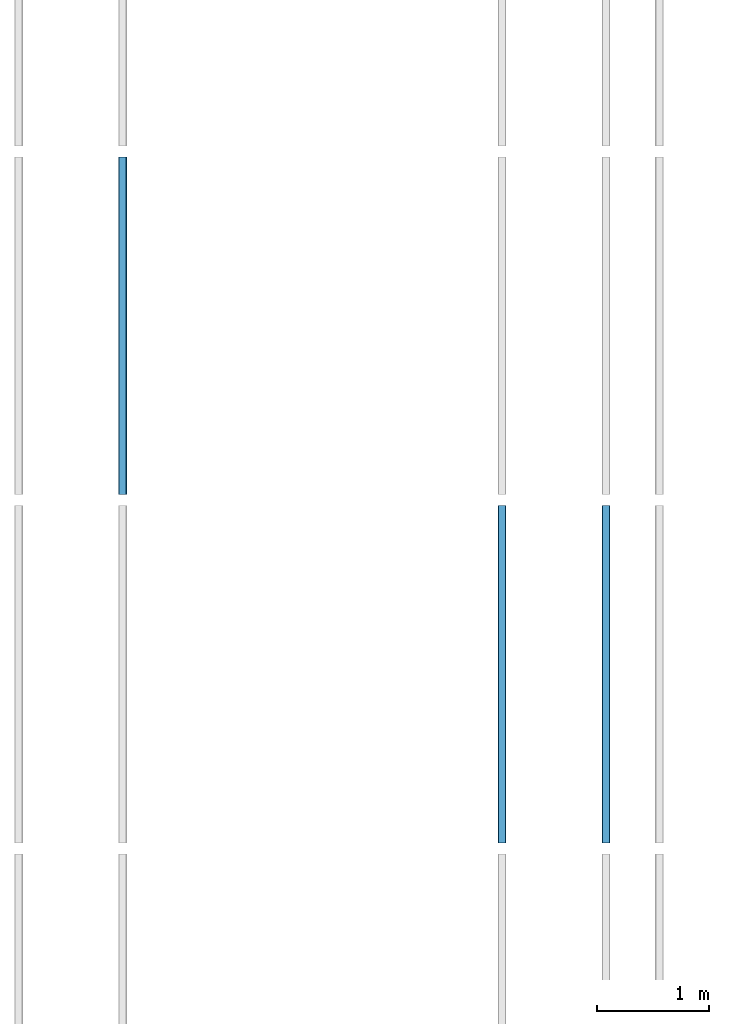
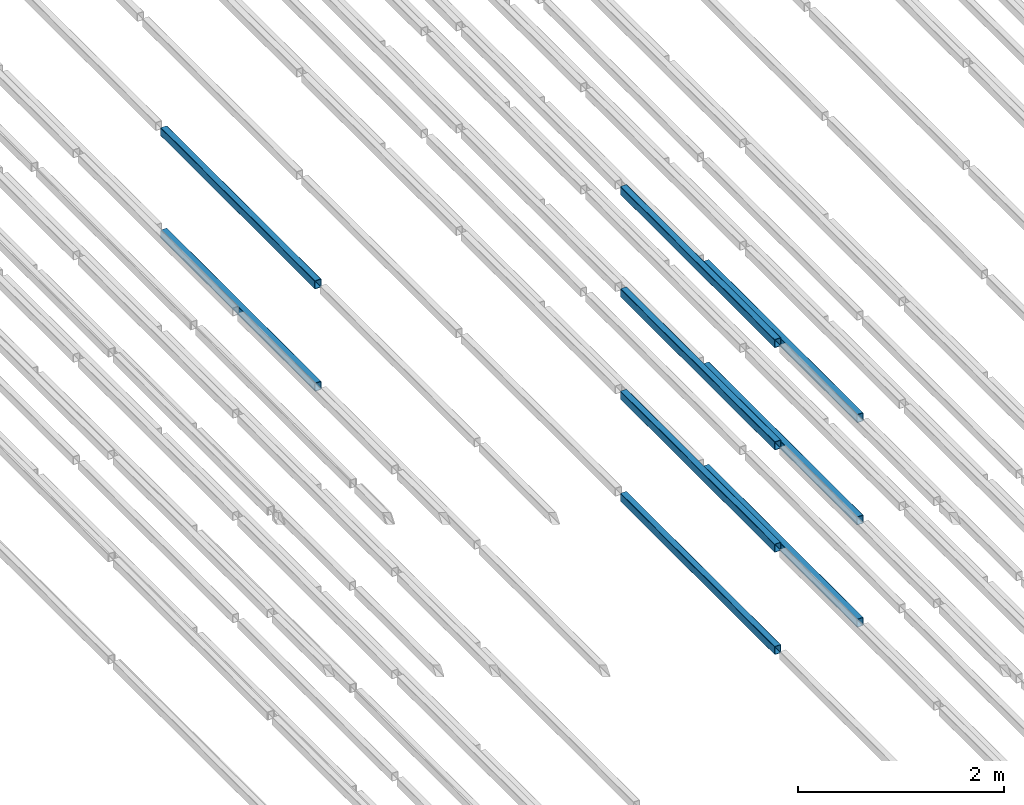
# One storey, part 43 of 290: 9 beams.
"""IFC2X3 building model written with IfcOpenShell, lengths in metres."""

from ifc_helpers import new_model, entity, si_unit, converted_unit, derived_unit, direction, frame, frame_2d, origin, place, context, subcontext, project, spatial, polyline, circle_curve, parameter, trimmed, segment, composite_curve, outline, extrude, material, type_object, element, save


model = new_model("IFC2X3")

# Units and contexts
model_context = context("Model", 3, precision=1e-05, world=origin(), true_north=direction((6.12303176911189e-17, 1.0)))
body_context = subcontext(model_context, "Body", "Model", "MODEL_VIEW")
ifc_project = project(units=[si_unit("LENGTHUNIT", "METRE"), si_unit("AREAUNIT", "SQUARE_METRE"), si_unit("VOLUMEUNIT", "CUBIC_METRE"), converted_unit("PLANEANGLEUNIT", "DEGREE", entity("IfcRatioMeasure", 0.0174532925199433), si_unit("PLANEANGLEUNIT", "RADIAN"), dimensions=[0, 0, 0, 0, 0, 0, 0]), si_unit("MASSUNIT", "GRAM", prefix="KILO"), derived_unit("MASSDENSITYUNIT", [(si_unit("MASSUNIT", "GRAM", prefix="KILO"), 1), (si_unit("LENGTHUNIT", "METRE"), -3)]), derived_unit("MOMENTOFINERTIAUNIT", [(si_unit("LENGTHUNIT", "METRE"), 4)]), si_unit("TIMEUNIT", "SECOND"), si_unit("FREQUENCYUNIT", "HERTZ"), si_unit("THERMODYNAMICTEMPERATUREUNIT", "DEGREE_CELSIUS"), derived_unit("THERMALTRANSMITTANCEUNIT", [(si_unit("MASSUNIT", "GRAM", prefix="KILO"), 1), (si_unit("THERMODYNAMICTEMPERATUREUNIT", "KELVIN"), -1), (si_unit("TIMEUNIT", "SECOND"), -3)]), derived_unit("VOLUMETRICFLOWRATEUNIT", [(si_unit("LENGTHUNIT", "METRE"), 3), (si_unit("TIMEUNIT", "SECOND"), -1)]), si_unit("ELECTRICCURRENTUNIT", "AMPERE"), si_unit("ELECTRICVOLTAGEUNIT", "VOLT"), si_unit("POWERUNIT", "WATT"), si_unit("FORCEUNIT", "NEWTON", prefix="KILO"), si_unit("ILLUMINANCEUNIT", "LUX"), si_unit("LUMINOUSFLUXUNIT", "LUMEN"), si_unit("LUMINOUSINTENSITYUNIT", "CANDELA"), derived_unit("USERDEFINED", [(si_unit("MASSUNIT", "GRAM", prefix="KILO"), -1), (si_unit("LENGTHUNIT", "METRE"), -2), (si_unit("TIMEUNIT", "SECOND"), 3), (si_unit("LUMINOUSFLUXUNIT", "LUMEN"), 1)]), derived_unit("LINEARVELOCITYUNIT", [(si_unit("LENGTHUNIT", "METRE"), 1), (si_unit("TIMEUNIT", "SECOND"), -1)]), si_unit("PRESSUREUNIT", "PASCAL"), derived_unit("USERDEFINED", [(si_unit("LENGTHUNIT", "METRE"), -2), (si_unit("MASSUNIT", "GRAM", prefix="KILO"), 1), (si_unit("TIMEUNIT", "SECOND"), -2)]), derived_unit("LINEARFORCEUNIT", [(si_unit("MASSUNIT", "GRAM", prefix="KILO"), 1), (si_unit("LENGTHUNIT", "METRE"), 1), (si_unit("TIMEUNIT", "SECOND"), -2), (si_unit("LENGTHUNIT", "METRE"), -1)]), derived_unit("PLANARFORCEUNIT", [(si_unit("MASSUNIT", "GRAM", prefix="KILO"), 1), (si_unit("LENGTHUNIT", "METRE"), 1), (si_unit("TIMEUNIT", "SECOND"), -2), (si_unit("LENGTHUNIT", "METRE"), -2)])], contexts=[model_context])

# Site, building, storey
site_placement = place(None, origin())
site = spatial("IfcSite", under=ifc_project, at=site_placement, Name="Default", CompositionType="ELEMENT")
building_placement = place(site_placement, origin())
building = spatial("IfcBuilding", under=site, at=building_placement, CompositionType="ELEMENT")
storey_placement = place(building_placement, frame((0.0, 0.0, 4.0)))
storey = spatial("IfcBuildingStorey", under=building, at=storey_placement, Name="01_OG", CompositionType="ELEMENT", Elevation=4.0)

# Beams
ifc_material = material(Name="Metall - Baustahl S235 blau")
beam_type = type_object("IfcBeamType", Name="RHS Träger (EN 10219-2):RHS 100 x 75 x 5", PredefinedType="NOTDEFINED")
beam_1_placement = place(storey_placement, frame((-196.415111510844, 30.248088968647, -1.2), z_axis=(0.0, 0.0, 1.0), x_axis=(0.0, 1.0, 0.0)))
element("IfcBeam", 1, at=beam_1_placement, inside=storey, type_object=beam_type, material=ifc_material, Name="RHS Träger (EN 10219-2):RHS 100 x 75 x 5", ObjectType="RHS Träger (EN 10219-2):RHS 100 x 75 x 5", context=body_context, shape_type="SweptSolid", body=[
    extrude(outline(composite_curve([segment(trimmed(circle_curve(frame_2d((-0.0274999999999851, -0.0400000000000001), x_axis=(1.0, 0.0)), 0.01), [parameter(180.0)], [parameter(270.0)], True, "PARAMETER"), True, "CONTINUOUS"), segment(polyline([(-0.0274999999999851, -0.05), (0.0274999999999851, -0.05)]), True, "CONTINUOUS"), segment(trimmed(circle_curve(frame_2d((0.0274999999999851, -0.0400000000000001), x_axis=(1.0, 0.0)), 0.01), [parameter(270.0)], [parameter(5.08888749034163e-14)], True, "PARAMETER"), True, "CONTINUOUS"), segment(polyline([(0.0375000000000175, -0.0400000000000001), (0.0375000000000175, 0.0400000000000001)]), True, "CONTINUOUS"), segment(trimmed(circle_curve(frame_2d((0.0274999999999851, 0.0400000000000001), x_axis=(1.0, 0.0)), 0.01), [parameter(360.0)], [parameter(89.9999999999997)], True, "PARAMETER"), True, "CONTINUOUS"), segment(polyline([(0.0274999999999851, 0.05), (-0.0274999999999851, 0.05)]), True, "CONTINUOUS"), segment(trimmed(circle_curve(frame_2d((-0.0274999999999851, 0.0400000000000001), x_axis=(1.0, 0.0)), 0.01), [parameter(90.0000000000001)], [parameter(180.0)], True, "PARAMETER"), True, "CONTINUOUS"), segment(polyline([(-0.0374999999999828, 0.0400000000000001), (-0.0374999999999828, -0.0400000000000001)]), True, "CONTINUOUS")], self_intersect=False), holes=[composite_curve([segment(polyline([(0.0274999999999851, -0.0450000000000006), (-0.0274999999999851, -0.0450000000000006)]), True, "CONTINUOUS"), segment(trimmed(circle_curve(frame_2d((-0.0274999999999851, -0.0400000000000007), x_axis=(1.0, 0.0)), 0.005), [parameter(180.0)], [parameter(270.0)], True, "PARAMETER"), False, "CONTINUOUS"), segment(polyline([(-0.0325000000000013, -0.0400000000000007), (-0.0325000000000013, 0.039999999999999)]), True, "CONTINUOUS"), segment(trimmed(circle_curve(frame_2d((-0.0274999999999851, 0.039999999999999), x_axis=(1.0, 0.0)), 0.005), [parameter(90.0000000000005)], [parameter(180.0)], True, "PARAMETER"), False, "CONTINUOUS"), segment(polyline([(-0.0274999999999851, 0.044999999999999), (0.0274999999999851, 0.044999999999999)]), True, "CONTINUOUS"), segment(trimmed(circle_curve(frame_2d((0.0274999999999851, 0.039999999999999), x_axis=(1.0, 0.0)), 0.005), [parameter(0.0)], [parameter(90.0000000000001)], True, "PARAMETER"), False, "CONTINUOUS"), segment(polyline([(0.0325000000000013, 0.039999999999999), (0.0325000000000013, -0.0400000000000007)]), True, "CONTINUOUS"), segment(trimmed(circle_curve(frame_2d((0.0274999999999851, -0.0400000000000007), x_axis=(1.0, 0.0)), 0.005), [parameter(270.0)], [parameter(4.07110999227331e-13)], True, "PARAMETER"), False, "CONTINUOUS")], self_intersect=False)]), frame((9.99999999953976e-05, 0.0375000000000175, -0.0500000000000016), z_axis=(1.0, 0.0, 0.0), x_axis=(0.0, -1.0, 0.0)), (0.0, 0.0, 1.0), 2.9998),
])
beam_2_placement = place(storey_placement, frame((-196.415111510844, 30.248088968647, 0.0150000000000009), z_axis=(0.0, 0.0, 1.0), x_axis=(0.0, 1.0, 0.0)))
element("IfcBeam", 2, at=beam_2_placement, inside=storey, type_object=beam_type, material=ifc_material, Name="RHS Träger (EN 10219-2):RHS 100 x 75 x 5", ObjectType="RHS Träger (EN 10219-2):RHS 100 x 75 x 5", context=body_context, shape_type="SweptSolid", body=[
    extrude(outline(composite_curve([segment(trimmed(circle_curve(frame_2d((-0.0274999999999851, -0.0400000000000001), x_axis=(1.0, 0.0)), 0.01), [parameter(180.0)], [parameter(270.0)], True, "PARAMETER"), True, "CONTINUOUS"), segment(polyline([(-0.0274999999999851, -0.05), (0.0274999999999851, -0.05)]), True, "CONTINUOUS"), segment(trimmed(circle_curve(frame_2d((0.0274999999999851, -0.0400000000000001), x_axis=(1.0, 0.0)), 0.01), [parameter(270.0)], [parameter(5.08888749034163e-14)], True, "PARAMETER"), True, "CONTINUOUS"), segment(polyline([(0.0375000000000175, -0.0400000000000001), (0.0375000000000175, 0.0400000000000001)]), True, "CONTINUOUS"), segment(trimmed(circle_curve(frame_2d((0.0274999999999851, 0.0400000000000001), x_axis=(1.0, 0.0)), 0.01), [parameter(360.0)], [parameter(89.9999999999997)], True, "PARAMETER"), True, "CONTINUOUS"), segment(polyline([(0.0274999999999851, 0.05), (-0.0274999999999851, 0.05)]), True, "CONTINUOUS"), segment(trimmed(circle_curve(frame_2d((-0.0274999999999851, 0.0400000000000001), x_axis=(1.0, 0.0)), 0.01), [parameter(90.0000000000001)], [parameter(180.0)], True, "PARAMETER"), True, "CONTINUOUS"), segment(polyline([(-0.0374999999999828, 0.0400000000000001), (-0.0374999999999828, -0.0400000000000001)]), True, "CONTINUOUS")], self_intersect=False), holes=[composite_curve([segment(polyline([(0.0274999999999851, -0.0450000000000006), (-0.0274999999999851, -0.0450000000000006)]), True, "CONTINUOUS"), segment(trimmed(circle_curve(frame_2d((-0.0274999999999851, -0.0400000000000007), x_axis=(1.0, 0.0)), 0.005), [parameter(180.0)], [parameter(270.0)], True, "PARAMETER"), False, "CONTINUOUS"), segment(polyline([(-0.0325000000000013, -0.0400000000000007), (-0.0325000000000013, 0.039999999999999)]), True, "CONTINUOUS"), segment(trimmed(circle_curve(frame_2d((-0.0274999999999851, 0.039999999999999), x_axis=(1.0, 0.0)), 0.005), [parameter(90.0000000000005)], [parameter(180.0)], True, "PARAMETER"), False, "CONTINUOUS"), segment(polyline([(-0.0274999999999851, 0.044999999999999), (0.0274999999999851, 0.044999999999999)]), True, "CONTINUOUS"), segment(trimmed(circle_curve(frame_2d((0.0274999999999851, 0.039999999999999), x_axis=(1.0, 0.0)), 0.005), [parameter(0.0)], [parameter(90.0000000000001)], True, "PARAMETER"), False, "CONTINUOUS"), segment(polyline([(0.0325000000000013, 0.039999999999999), (0.0325000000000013, -0.0400000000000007)]), True, "CONTINUOUS"), segment(trimmed(circle_curve(frame_2d((0.0274999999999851, -0.0400000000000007), x_axis=(1.0, 0.0)), 0.005), [parameter(270.0)], [parameter(4.07110999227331e-13)], True, "PARAMETER"), False, "CONTINUOUS")], self_intersect=False)]), frame((9.9999999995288e-05, 0.0375000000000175, -0.0500000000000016), z_axis=(1.0, 0.0, 0.0), x_axis=(0.0, -1.0, 0.0)), (0.0, 0.0, 1.0), 2.9998),
])
beam_3_placement = place(storey_placement, frame((-196.415111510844, 30.248088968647, 1.23), z_axis=(0.0, 0.0, 1.0), x_axis=(0.0, 1.0, 0.0)))
element("IfcBeam", 3, at=beam_3_placement, inside=storey, type_object=beam_type, material=ifc_material, Name="RHS Träger (EN 10219-2):RHS 100 x 75 x 5", ObjectType="RHS Träger (EN 10219-2):RHS 100 x 75 x 5", context=body_context, shape_type="SweptSolid", body=[
    extrude(outline(composite_curve([segment(trimmed(circle_curve(frame_2d((-0.0274999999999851, -0.0399999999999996), x_axis=(1.0, 0.0)), 0.01), [parameter(180.0)], [parameter(270.0)], True, "PARAMETER"), True, "CONTINUOUS"), segment(polyline([(-0.0274999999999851, -0.0499999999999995), (0.0274999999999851, -0.0499999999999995)]), True, "CONTINUOUS"), segment(trimmed(circle_curve(frame_2d((0.0274999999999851, -0.0399999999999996), x_axis=(1.0, 0.0)), 0.01), [parameter(270.0)], [parameter(5.08888749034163e-14)], True, "PARAMETER"), True, "CONTINUOUS"), segment(polyline([(0.0375000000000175, -0.0399999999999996), (0.0375000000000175, 0.0399999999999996)]), True, "CONTINUOUS"), segment(trimmed(circle_curve(frame_2d((0.0274999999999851, 0.0399999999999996), x_axis=(1.0, 0.0)), 0.01), [parameter(360.0)], [parameter(89.9999999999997)], True, "PARAMETER"), True, "CONTINUOUS"), segment(polyline([(0.0274999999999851, 0.0500000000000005), (-0.0274999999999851, 0.0500000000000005)]), True, "CONTINUOUS"), segment(trimmed(circle_curve(frame_2d((-0.0274999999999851, 0.0399999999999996), x_axis=(1.0, 0.0)), 0.01), [parameter(90.0000000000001)], [parameter(180.0)], True, "PARAMETER"), True, "CONTINUOUS"), segment(polyline([(-0.0374999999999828, 0.0399999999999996), (-0.0374999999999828, -0.0399999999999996)]), True, "CONTINUOUS")], self_intersect=False), holes=[composite_curve([segment(polyline([(0.0274999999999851, -0.0450000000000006), (-0.0274999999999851, -0.0450000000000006)]), True, "CONTINUOUS"), segment(trimmed(circle_curve(frame_2d((-0.0274999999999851, -0.0400000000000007), x_axis=(1.0, 0.0)), 0.005), [parameter(180.0)], [parameter(270.0)], True, "PARAMETER"), False, "CONTINUOUS"), segment(polyline([(-0.0325000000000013, -0.0400000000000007), (-0.0325000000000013, 0.0399999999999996)]), True, "CONTINUOUS"), segment(trimmed(circle_curve(frame_2d((-0.0274999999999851, 0.0399999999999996), x_axis=(1.0, 0.0)), 0.005), [parameter(90.0000000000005)], [parameter(180.0)], True, "PARAMETER"), False, "CONTINUOUS"), segment(polyline([(-0.0274999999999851, 0.0449999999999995), (0.0274999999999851, 0.0449999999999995)]), True, "CONTINUOUS"), segment(trimmed(circle_curve(frame_2d((0.0274999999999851, 0.0399999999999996), x_axis=(1.0, 0.0)), 0.005), [parameter(0.0)], [parameter(90.0000000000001)], True, "PARAMETER"), False, "CONTINUOUS"), segment(polyline([(0.0325000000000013, 0.0399999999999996), (0.0325000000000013, -0.0400000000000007)]), True, "CONTINUOUS"), segment(trimmed(circle_curve(frame_2d((0.0274999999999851, -0.0400000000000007), x_axis=(1.0, 0.0)), 0.005), [parameter(270.0)], [parameter(4.07110999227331e-13)], True, "PARAMETER"), False, "CONTINUOUS")], self_intersect=False)]), frame((9.99999999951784e-05, 0.0375000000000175, -0.0500000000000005), z_axis=(1.0, 0.0, 0.0), x_axis=(0.0, -1.0, 0.0)), (0.0, 0.0, 1.0), 2.9998),
])
beam_4_placement = place(storey_placement, frame((-196.415111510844, 30.248088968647, 2.445), z_axis=(0.0, 0.0, 1.0), x_axis=(0.0, 1.0, 0.0)))
element("IfcBeam", 4, at=beam_4_placement, inside=storey, type_object=beam_type, material=ifc_material, Name="RHS Träger (EN 10219-2):RHS 100 x 75 x 5", ObjectType="RHS Träger (EN 10219-2):RHS 100 x 75 x 5", context=body_context, shape_type="SweptSolid", body=[
    extrude(outline(composite_curve([segment(trimmed(circle_curve(frame_2d((-0.0274999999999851, -0.0399999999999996), x_axis=(1.0, 0.0)), 0.01), [parameter(180.0)], [parameter(270.0)], True, "PARAMETER"), True, "CONTINUOUS"), segment(polyline([(-0.0274999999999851, -0.0499999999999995), (0.0274999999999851, -0.0499999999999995)]), True, "CONTINUOUS"), segment(trimmed(circle_curve(frame_2d((0.0274999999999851, -0.0399999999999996), x_axis=(1.0, 0.0)), 0.01), [parameter(270.0)], [parameter(5.08888749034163e-14)], True, "PARAMETER"), True, "CONTINUOUS"), segment(polyline([(0.0375000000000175, -0.0399999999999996), (0.0375000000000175, 0.0399999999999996)]), True, "CONTINUOUS"), segment(trimmed(circle_curve(frame_2d((0.0274999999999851, 0.0399999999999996), x_axis=(1.0, 0.0)), 0.01), [parameter(360.0)], [parameter(89.9999999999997)], True, "PARAMETER"), True, "CONTINUOUS"), segment(polyline([(0.0274999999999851, 0.0500000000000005), (-0.0274999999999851, 0.0500000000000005)]), True, "CONTINUOUS"), segment(trimmed(circle_curve(frame_2d((-0.0274999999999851, 0.0399999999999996), x_axis=(1.0, 0.0)), 0.01), [parameter(90.0000000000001)], [parameter(180.0)], True, "PARAMETER"), True, "CONTINUOUS"), segment(polyline([(-0.0374999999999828, 0.0399999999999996), (-0.0374999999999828, -0.0399999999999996)]), True, "CONTINUOUS")], self_intersect=False), holes=[composite_curve([segment(polyline([(0.0274999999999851, -0.0450000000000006), (-0.0274999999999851, -0.0450000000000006)]), True, "CONTINUOUS"), segment(trimmed(circle_curve(frame_2d((-0.0274999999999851, -0.0400000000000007), x_axis=(1.0, 0.0)), 0.005), [parameter(180.0)], [parameter(270.0)], True, "PARAMETER"), False, "CONTINUOUS"), segment(polyline([(-0.0325000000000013, -0.0400000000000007), (-0.0325000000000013, 0.0399999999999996)]), True, "CONTINUOUS"), segment(trimmed(circle_curve(frame_2d((-0.0274999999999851, 0.0399999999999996), x_axis=(1.0, 0.0)), 0.005), [parameter(90.0000000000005)], [parameter(180.0)], True, "PARAMETER"), False, "CONTINUOUS"), segment(polyline([(-0.0274999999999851, 0.0449999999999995), (0.0274999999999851, 0.0449999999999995)]), True, "CONTINUOUS"), segment(trimmed(circle_curve(frame_2d((0.0274999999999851, 0.0399999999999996), x_axis=(1.0, 0.0)), 0.005), [parameter(0.0)], [parameter(90.0000000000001)], True, "PARAMETER"), False, "CONTINUOUS"), segment(polyline([(0.0325000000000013, 0.0399999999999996), (0.0325000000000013, -0.0400000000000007)]), True, "CONTINUOUS"), segment(trimmed(circle_curve(frame_2d((0.0274999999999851, -0.0400000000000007), x_axis=(1.0, 0.0)), 0.005), [parameter(270.0)], [parameter(4.07110999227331e-13)], True, "PARAMETER"), False, "CONTINUOUS")], self_intersect=False)]), frame((9.99999999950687e-05, 0.0375000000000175, -0.0500000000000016), z_axis=(1.0, 0.0, 0.0), x_axis=(0.0, -1.0, 0.0)), (0.0, 0.0, 1.0), 2.9998),
])
beam_5_placement = place(storey_placement, frame((-195.565111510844, 30.248088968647, -1.2), z_axis=(0.0, 0.0, 1.0), x_axis=(0.0, 1.0, 0.0)))
element("IfcBeam", 5, at=beam_5_placement, inside=storey, type_object=beam_type, material=ifc_material, Name="RHS Träger (EN 10219-2):RHS 100 x 75 x 5", ObjectType="RHS Träger (EN 10219-2):RHS 100 x 75 x 5", context=body_context, shape_type="SweptSolid", body=[
    extrude(outline(composite_curve([segment(polyline([(-0.0400000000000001, -0.0374999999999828), (0.0400000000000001, -0.0374999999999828)]), True, "CONTINUOUS"), segment(trimmed(circle_curve(frame_2d((0.0400000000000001, -0.0274999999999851), x_axis=(0.0, 1.0)), 0.01), [parameter(180.0)], [parameter(270.0)], True, "PARAMETER"), True, "CONTINUOUS"), segment(polyline([(0.05, -0.0274999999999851), (0.05, 0.0274999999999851)]), True, "CONTINUOUS"), segment(trimmed(circle_curve(frame_2d((0.0400000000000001, 0.0274999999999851), x_axis=(0.0, 1.0)), 0.01), [parameter(270.0)], [parameter(4.07110999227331e-13)], True, "PARAMETER"), True, "CONTINUOUS"), segment(polyline([(0.0400000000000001, 0.0375000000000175), (-0.0400000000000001, 0.0375000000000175)]), True, "CONTINUOUS"), segment(trimmed(circle_curve(frame_2d((-0.0400000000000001, 0.0274999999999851), x_axis=(0.0, 1.0)), 0.01), [parameter(360.0)], [parameter(90.0000000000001)], True, "PARAMETER"), True, "CONTINUOUS"), segment(polyline([(-0.05, 0.0274999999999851), (-0.05, -0.0274999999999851)]), True, "CONTINUOUS"), segment(trimmed(circle_curve(frame_2d((-0.0400000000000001, -0.0274999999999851), x_axis=(0.0, 1.0)), 0.01), [parameter(90.0000000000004)], [parameter(180.0)], True, "PARAMETER"), True, "CONTINUOUS")], self_intersect=False), holes=[composite_curve([segment(trimmed(circle_curve(frame_2d((-0.0400000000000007, 0.0274999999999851), x_axis=(0.0, 1.0)), 0.005), [parameter(360.0)], [parameter(89.9999999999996)], True, "PARAMETER"), False, "CONTINUOUS"), segment(polyline([(-0.0400000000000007, 0.0325000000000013), (0.039999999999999, 0.0325000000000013)]), True, "CONTINUOUS"), segment(trimmed(circle_curve(frame_2d((0.039999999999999, 0.0274999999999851), x_axis=(0.0, 1.0)), 0.005), [parameter(270.0)], [parameter(0.0)], True, "PARAMETER"), False, "CONTINUOUS"), segment(polyline([(0.044999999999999, 0.0274999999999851), (0.044999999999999, -0.0274999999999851)]), True, "CONTINUOUS"), segment(trimmed(circle_curve(frame_2d((0.039999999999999, -0.0274999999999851), x_axis=(0.0, 1.0)), 0.005), [parameter(180.0)], [parameter(269.999999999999)], True, "PARAMETER"), False, "CONTINUOUS"), segment(polyline([(0.039999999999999, -0.0325000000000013), (-0.0400000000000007, -0.0325000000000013)]), True, "CONTINUOUS"), segment(trimmed(circle_curve(frame_2d((-0.0400000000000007, -0.0274999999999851), x_axis=(0.0, 1.0)), 0.005), [parameter(90.0000000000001)], [parameter(180.0)], True, "PARAMETER"), False, "CONTINUOUS"), segment(polyline([(-0.0450000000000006, -0.0274999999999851), (-0.0450000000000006, 0.0274999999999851)]), True, "CONTINUOUS")], self_intersect=False)]), frame((9.99999999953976e-05, -0.0375000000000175, -0.0500000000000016), z_axis=(1.0, 0.0, 0.0), x_axis=(0.0, 0.0, -1.0)), (0.0, 0.0, 1.0), 2.9998),
])
beam_6_placement = place(storey_placement, frame((-195.565111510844, 30.248088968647, 0.0150000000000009), z_axis=(0.0, 0.0, 1.0), x_axis=(0.0, 1.0, 0.0)))
element("IfcBeam", 6, at=beam_6_placement, inside=storey, type_object=beam_type, material=ifc_material, Name="RHS Träger (EN 10219-2):RHS 100 x 75 x 5", ObjectType="RHS Träger (EN 10219-2):RHS 100 x 75 x 5", context=body_context, shape_type="SweptSolid", body=[
    extrude(outline(composite_curve([segment(polyline([(-0.0400000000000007, -0.0374999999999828), (0.0399999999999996, -0.0374999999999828)]), True, "CONTINUOUS"), segment(trimmed(circle_curve(frame_2d((0.0399999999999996, -0.0274999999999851), x_axis=(0.0, 1.0)), 0.01), [parameter(180.0)], [parameter(270.0)], True, "PARAMETER"), True, "CONTINUOUS"), segment(polyline([(0.0499999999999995, -0.0274999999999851), (0.0499999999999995, 0.0274999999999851)]), True, "CONTINUOUS"), segment(trimmed(circle_curve(frame_2d((0.0399999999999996, 0.0274999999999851), x_axis=(0.0, 1.0)), 0.01), [parameter(270.0)], [parameter(4.07110999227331e-13)], True, "PARAMETER"), True, "CONTINUOUS"), segment(polyline([(0.0399999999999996, 0.0375000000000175), (-0.0400000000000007, 0.0375000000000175)]), True, "CONTINUOUS"), segment(trimmed(circle_curve(frame_2d((-0.0400000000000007, 0.0274999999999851), x_axis=(0.0, 1.0)), 0.01), [parameter(360.0)], [parameter(90.0000000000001)], True, "PARAMETER"), True, "CONTINUOUS"), segment(polyline([(-0.0500000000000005, 0.0274999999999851), (-0.0500000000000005, -0.0274999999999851)]), True, "CONTINUOUS"), segment(trimmed(circle_curve(frame_2d((-0.0400000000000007, -0.0274999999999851), x_axis=(0.0, 1.0)), 0.01), [parameter(90.0000000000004)], [parameter(180.0)], True, "PARAMETER"), True, "CONTINUOUS")], self_intersect=False), holes=[composite_curve([segment(trimmed(circle_curve(frame_2d((-0.0400000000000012, 0.0274999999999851), x_axis=(0.0, 1.0)), 0.005), [parameter(360.0)], [parameter(89.9999999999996)], True, "PARAMETER"), False, "CONTINUOUS"), segment(polyline([(-0.0400000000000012, 0.0325000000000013), (0.0399999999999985, 0.0325000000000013)]), True, "CONTINUOUS"), segment(trimmed(circle_curve(frame_2d((0.0399999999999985, 0.0274999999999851), x_axis=(0.0, 1.0)), 0.005), [parameter(270.0)], [parameter(0.0)], True, "PARAMETER"), False, "CONTINUOUS"), segment(polyline([(0.0449999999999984, 0.0274999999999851), (0.0449999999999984, -0.0274999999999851)]), True, "CONTINUOUS"), segment(trimmed(circle_curve(frame_2d((0.0399999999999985, -0.0274999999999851), x_axis=(0.0, 1.0)), 0.005), [parameter(180.0)], [parameter(269.999999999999)], True, "PARAMETER"), False, "CONTINUOUS"), segment(polyline([(0.0399999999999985, -0.0325000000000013), (-0.0400000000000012, -0.0325000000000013)]), True, "CONTINUOUS"), segment(trimmed(circle_curve(frame_2d((-0.0400000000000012, -0.0274999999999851), x_axis=(0.0, 1.0)), 0.005), [parameter(90.0000000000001)], [parameter(180.0)], True, "PARAMETER"), False, "CONTINUOUS"), segment(polyline([(-0.0450000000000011, -0.0274999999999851), (-0.0450000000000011, 0.0274999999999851)]), True, "CONTINUOUS")], self_intersect=False)]), frame((9.9999999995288e-05, -0.0375000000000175, -0.0500000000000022), z_axis=(1.0, 0.0, 0.0), x_axis=(0.0, 0.0, -1.0)), (0.0, 0.0, 1.0), 2.9998),
])
beam_7_placement = place(storey_placement, frame((-195.565111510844, 30.248088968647, 1.23), z_axis=(0.0, 0.0, 1.0), x_axis=(0.0, 1.0, 0.0)))
element("IfcBeam", 7, at=beam_7_placement, inside=storey, type_object=beam_type, material=ifc_material, Name="RHS Träger (EN 10219-2):RHS 100 x 75 x 5", ObjectType="RHS Träger (EN 10219-2):RHS 100 x 75 x 5", context=body_context, shape_type="SweptSolid", body=[
    extrude(outline(composite_curve([segment(polyline([(-0.0399999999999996, -0.0374999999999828), (0.0399999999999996, -0.0374999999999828)]), True, "CONTINUOUS"), segment(trimmed(circle_curve(frame_2d((0.0399999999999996, -0.0274999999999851), x_axis=(0.0, 1.0)), 0.01), [parameter(180.0)], [parameter(270.0)], True, "PARAMETER"), True, "CONTINUOUS"), segment(polyline([(0.0500000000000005, -0.0274999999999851), (0.0500000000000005, 0.0274999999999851)]), True, "CONTINUOUS"), segment(trimmed(circle_curve(frame_2d((0.0399999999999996, 0.0274999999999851), x_axis=(0.0, 1.0)), 0.01), [parameter(270.0)], [parameter(4.07110999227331e-13)], True, "PARAMETER"), True, "CONTINUOUS"), segment(polyline([(0.0399999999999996, 0.0375000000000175), (-0.0399999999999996, 0.0375000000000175)]), True, "CONTINUOUS"), segment(trimmed(circle_curve(frame_2d((-0.0399999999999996, 0.0274999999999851), x_axis=(0.0, 1.0)), 0.01), [parameter(360.0)], [parameter(90.0000000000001)], True, "PARAMETER"), True, "CONTINUOUS"), segment(polyline([(-0.0499999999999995, 0.0274999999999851), (-0.0499999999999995, -0.0274999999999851)]), True, "CONTINUOUS"), segment(trimmed(circle_curve(frame_2d((-0.0399999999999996, -0.0274999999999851), x_axis=(0.0, 1.0)), 0.01), [parameter(90.0000000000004)], [parameter(180.0)], True, "PARAMETER"), True, "CONTINUOUS")], self_intersect=False), holes=[composite_curve([segment(trimmed(circle_curve(frame_2d((-0.0400000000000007, 0.0274999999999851), x_axis=(0.0, 1.0)), 0.005), [parameter(360.0)], [parameter(89.9999999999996)], True, "PARAMETER"), False, "CONTINUOUS"), segment(polyline([(-0.0400000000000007, 0.0325000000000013), (0.0399999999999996, 0.0325000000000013)]), True, "CONTINUOUS"), segment(trimmed(circle_curve(frame_2d((0.0399999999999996, 0.0274999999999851), x_axis=(0.0, 1.0)), 0.005), [parameter(270.0)], [parameter(0.0)], True, "PARAMETER"), False, "CONTINUOUS"), segment(polyline([(0.0449999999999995, 0.0274999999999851), (0.0449999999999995, -0.0274999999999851)]), True, "CONTINUOUS"), segment(trimmed(circle_curve(frame_2d((0.0399999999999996, -0.0274999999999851), x_axis=(0.0, 1.0)), 0.005), [parameter(180.0)], [parameter(269.999999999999)], True, "PARAMETER"), False, "CONTINUOUS"), segment(polyline([(0.0399999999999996, -0.0325000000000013), (-0.0400000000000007, -0.0325000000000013)]), True, "CONTINUOUS"), segment(trimmed(circle_curve(frame_2d((-0.0400000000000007, -0.0274999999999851), x_axis=(0.0, 1.0)), 0.005), [parameter(90.0000000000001)], [parameter(180.0)], True, "PARAMETER"), False, "CONTINUOUS"), segment(polyline([(-0.0450000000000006, -0.0274999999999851), (-0.0450000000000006, 0.0274999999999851)]), True, "CONTINUOUS")], self_intersect=False)]), frame((9.99999999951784e-05, -0.0375000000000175, -0.0500000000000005), z_axis=(1.0, 0.0, 0.0), x_axis=(0.0, 0.0, -1.0)), (0.0, 0.0, 1.0), 2.9998),
])
beam_8_placement = place(storey_placement, frame((-199.865111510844, 33.348088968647, 1.23), z_axis=(0.0, 0.0, 1.0), x_axis=(0.0, 1.0, 0.0)))
element("IfcBeam", 8, at=beam_8_placement, inside=storey, type_object=beam_type, material=ifc_material, Name="RHS Träger (EN 10219-2):RHS 100 x 75 x 5", ObjectType="RHS Träger (EN 10219-2):RHS 100 x 75 x 5", context=body_context, shape_type="SweptSolid", body=[
    extrude(outline(composite_curve([segment(polyline([(-0.0399999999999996, -0.0374999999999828), (0.0399999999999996, -0.0374999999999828)]), True, "CONTINUOUS"), segment(trimmed(circle_curve(frame_2d((0.0399999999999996, -0.0274999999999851), x_axis=(0.0, 1.0)), 0.01), [parameter(180.0)], [parameter(270.0)], True, "PARAMETER"), True, "CONTINUOUS"), segment(polyline([(0.0500000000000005, -0.0274999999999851), (0.0500000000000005, 0.0274999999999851)]), True, "CONTINUOUS"), segment(trimmed(circle_curve(frame_2d((0.0399999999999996, 0.0274999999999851), x_axis=(0.0, 1.0)), 0.01), [parameter(270.0)], [parameter(4.07110999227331e-13)], True, "PARAMETER"), True, "CONTINUOUS"), segment(polyline([(0.0399999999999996, 0.0375000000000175), (-0.0399999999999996, 0.0375000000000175)]), True, "CONTINUOUS"), segment(trimmed(circle_curve(frame_2d((-0.0399999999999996, 0.0274999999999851), x_axis=(0.0, 1.0)), 0.01), [parameter(360.0)], [parameter(90.0000000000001)], True, "PARAMETER"), True, "CONTINUOUS"), segment(polyline([(-0.0499999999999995, 0.0274999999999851), (-0.0499999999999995, -0.0274999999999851)]), True, "CONTINUOUS"), segment(trimmed(circle_curve(frame_2d((-0.0399999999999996, -0.0274999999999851), x_axis=(0.0, 1.0)), 0.01), [parameter(90.0000000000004)], [parameter(180.0)], True, "PARAMETER"), True, "CONTINUOUS")], self_intersect=False), holes=[composite_curve([segment(trimmed(circle_curve(frame_2d((-0.0400000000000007, 0.0274999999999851), x_axis=(0.0, 1.0)), 0.005), [parameter(360.0)], [parameter(89.9999999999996)], True, "PARAMETER"), False, "CONTINUOUS"), segment(polyline([(-0.0400000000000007, 0.0325000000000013), (0.0399999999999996, 0.0325000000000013)]), True, "CONTINUOUS"), segment(trimmed(circle_curve(frame_2d((0.0399999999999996, 0.0274999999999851), x_axis=(0.0, 1.0)), 0.005), [parameter(270.0)], [parameter(0.0)], True, "PARAMETER"), False, "CONTINUOUS"), segment(polyline([(0.0449999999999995, 0.0274999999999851), (0.0449999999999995, -0.0274999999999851)]), True, "CONTINUOUS"), segment(trimmed(circle_curve(frame_2d((0.0399999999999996, -0.0274999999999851), x_axis=(0.0, 1.0)), 0.005), [parameter(180.0)], [parameter(269.999999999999)], True, "PARAMETER"), False, "CONTINUOUS"), segment(polyline([(0.0399999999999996, -0.0325000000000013), (-0.0400000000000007, -0.0325000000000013)]), True, "CONTINUOUS"), segment(trimmed(circle_curve(frame_2d((-0.0400000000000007, -0.0274999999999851), x_axis=(0.0, 1.0)), 0.005), [parameter(90.0000000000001)], [parameter(180.0)], True, "PARAMETER"), False, "CONTINUOUS"), segment(polyline([(-0.0450000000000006, -0.0274999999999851), (-0.0450000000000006, 0.0274999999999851)]), True, "CONTINUOUS")], self_intersect=False)]), frame((9.99999999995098e-05, -0.0375000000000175, -0.0500000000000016), z_axis=(1.0, 0.0, 0.0), x_axis=(0.0, 0.0, -1.0)), (0.0, 0.0, 1.0), 2.9998),
])
beam_9_placement = place(storey_placement, frame((-199.865111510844, 33.348088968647, 2.445), z_axis=(0.0, 0.0, 1.0), x_axis=(0.0, 1.0, 0.0)))
element("IfcBeam", 9, at=beam_9_placement, inside=storey, type_object=beam_type, material=ifc_material, Name="RHS Träger (EN 10219-2):RHS 100 x 75 x 5", ObjectType="RHS Träger (EN 10219-2):RHS 100 x 75 x 5", context=body_context, shape_type="SweptSolid", body=[
    extrude(outline(composite_curve([segment(polyline([(-0.0399999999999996, -0.0374999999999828), (0.0399999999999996, -0.0374999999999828)]), True, "CONTINUOUS"), segment(trimmed(circle_curve(frame_2d((0.0399999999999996, -0.0274999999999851), x_axis=(0.0, 1.0)), 0.01), [parameter(180.0)], [parameter(270.0)], True, "PARAMETER"), True, "CONTINUOUS"), segment(polyline([(0.0500000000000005, -0.0274999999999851), (0.0500000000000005, 0.0274999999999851)]), True, "CONTINUOUS"), segment(trimmed(circle_curve(frame_2d((0.0399999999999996, 0.0274999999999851), x_axis=(0.0, 1.0)), 0.01), [parameter(270.0)], [parameter(4.07110999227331e-13)], True, "PARAMETER"), True, "CONTINUOUS"), segment(polyline([(0.0399999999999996, 0.0375000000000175), (-0.0399999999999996, 0.0375000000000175)]), True, "CONTINUOUS"), segment(trimmed(circle_curve(frame_2d((-0.0399999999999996, 0.0274999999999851), x_axis=(0.0, 1.0)), 0.01), [parameter(360.0)], [parameter(90.0000000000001)], True, "PARAMETER"), True, "CONTINUOUS"), segment(polyline([(-0.0499999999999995, 0.0274999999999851), (-0.0499999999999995, -0.0274999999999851)]), True, "CONTINUOUS"), segment(trimmed(circle_curve(frame_2d((-0.0399999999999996, -0.0274999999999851), x_axis=(0.0, 1.0)), 0.01), [parameter(90.0000000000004)], [parameter(180.0)], True, "PARAMETER"), True, "CONTINUOUS")], self_intersect=False), holes=[composite_curve([segment(trimmed(circle_curve(frame_2d((-0.0400000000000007, 0.0274999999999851), x_axis=(0.0, 1.0)), 0.005), [parameter(360.0)], [parameter(89.9999999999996)], True, "PARAMETER"), False, "CONTINUOUS"), segment(polyline([(-0.0400000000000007, 0.0325000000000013), (0.0399999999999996, 0.0325000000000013)]), True, "CONTINUOUS"), segment(trimmed(circle_curve(frame_2d((0.0399999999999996, 0.0274999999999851), x_axis=(0.0, 1.0)), 0.005), [parameter(270.0)], [parameter(0.0)], True, "PARAMETER"), False, "CONTINUOUS"), segment(polyline([(0.0449999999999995, 0.0274999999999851), (0.0449999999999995, -0.0274999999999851)]), True, "CONTINUOUS"), segment(trimmed(circle_curve(frame_2d((0.0399999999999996, -0.0274999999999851), x_axis=(0.0, 1.0)), 0.005), [parameter(180.0)], [parameter(269.999999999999)], True, "PARAMETER"), False, "CONTINUOUS"), segment(polyline([(0.0399999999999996, -0.0325000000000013), (-0.0400000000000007, -0.0325000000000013)]), True, "CONTINUOUS"), segment(trimmed(circle_curve(frame_2d((-0.0400000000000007, -0.0274999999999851), x_axis=(0.0, 1.0)), 0.005), [parameter(90.0000000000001)], [parameter(180.0)], True, "PARAMETER"), False, "CONTINUOUS"), segment(polyline([(-0.0450000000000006, -0.0274999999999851), (-0.0450000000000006, 0.0274999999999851)]), True, "CONTINUOUS")], self_intersect=False)]), frame((9.99999999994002e-05, -0.0375000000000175, -0.0500000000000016), z_axis=(1.0, 0.0, 0.0), x_axis=(0.0, 0.0, -1.0)), (0.0, 0.0, 1.0), 2.9998),
])

save(model, "model.ifc")
